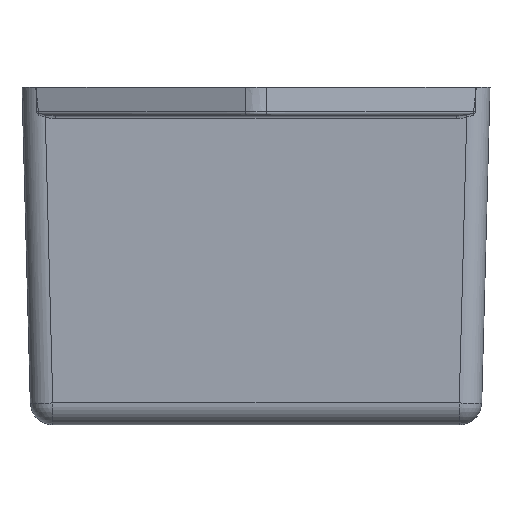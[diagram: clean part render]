
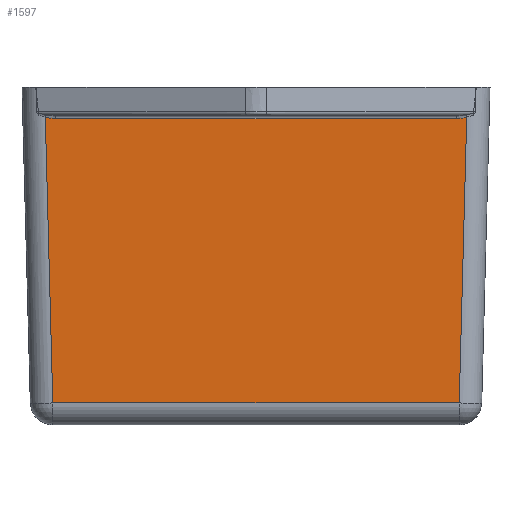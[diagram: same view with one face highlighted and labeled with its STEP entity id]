
A CAD part, left-side view. The second image highlights one B-rep face of the part: STEP entity #1597.
In plain terms, the highlighted planar face has unit normal (-1, 0, -0.026).
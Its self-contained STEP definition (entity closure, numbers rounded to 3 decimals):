
#93=ELLIPSE('',#1691,1.998,0.762);
#94=ELLIPSE('',#1692,1.998,0.762);
#224=ORIENTED_EDGE('',*,*,#540,.T.);
#225=ORIENTED_EDGE('',*,*,#541,.T.);
#226=ORIENTED_EDGE('',*,*,#542,.T.);
#227=ORIENTED_EDGE('',*,*,#543,.T.);
#228=ORIENTED_EDGE('',*,*,#544,.T.);
#229=ORIENTED_EDGE('',*,*,#545,.T.);
#540=EDGE_CURVE('',#696,#697,#792,.T.);
#541=EDGE_CURVE('',#697,#698,#93,.F.);
#542=EDGE_CURVE('',#698,#699,#793,.F.);
#543=EDGE_CURVE('',#699,#700,#94,.F.);
#544=EDGE_CURVE('',#700,#701,#794,.F.);
#545=EDGE_CURVE('',#701,#696,#795,.T.);
#696=VERTEX_POINT('',#2271);
#697=VERTEX_POINT('',#2272);
#698=VERTEX_POINT('',#2274);
#699=VERTEX_POINT('',#2276);
#700=VERTEX_POINT('',#2278);
#701=VERTEX_POINT('',#2280);
#792=LINE('',#2270,#886);
#793=LINE('',#2275,#887);
#794=LINE('',#2279,#888);
#795=LINE('',#2281,#889);
#886=VECTOR('',#1903,1000.);
#887=VECTOR('',#1906,1000.);
#888=VECTOR('',#1909,1000.);
#889=VECTOR('',#1910,1000.);
#943=EDGE_LOOP('',(#224,#225,#226,#227,#228,#229));
#1017=FACE_BOUND('',#943,.T.);
#1083=PLANE('',#1690);
#1597=ADVANCED_FACE('',(#1017),#1083,.T.);
#1690=AXIS2_PLACEMENT_3D('',#2269,#1901,#1902);
#1691=AXIS2_PLACEMENT_3D('',#2273,#1904,#1905);
#1692=AXIS2_PLACEMENT_3D('',#2277,#1907,#1908);
#1901=DIRECTION('',(-1.,0.,-0.026));
#1902=DIRECTION('',(-0.026,0.,1.));
#1903=DIRECTION('',(-0.026,-0.026,0.999));
#1904=DIRECTION('',(-1.,0.,-0.026));
#1905=DIRECTION('',(0.,1.,0.011));
#1906=DIRECTION('',(0.,-1.,0.));
#1907=DIRECTION('',(-1.,0.,-0.026));
#1908=DIRECTION('',(0.,1.,-0.011));
#1909=DIRECTION('',(-0.026,0.026,0.999));
#1910=DIRECTION('',(0.,-1.,0.));
#2269=CARTESIAN_POINT('',(-25.4,0.,0.));
#2270=CARTESIAN_POINT('',(-25.384,-22.845,-0.598));
#2271=CARTESIAN_POINT('',(-25.465,-22.926,2.474));
#2272=CARTESIAN_POINT('',(-26.309,-23.77,34.704));
#2273=CARTESIAN_POINT('',(-26.325,-22.541,35.316));
#2274=CARTESIAN_POINT('',(-26.305,-22.589,34.554));
#2275=CARTESIAN_POINT('',(-26.305,23.488,34.554));
#2276=CARTESIAN_POINT('',(-26.305,22.589,34.554));
#2277=CARTESIAN_POINT('',(-26.325,22.541,35.316));
#2278=CARTESIAN_POINT('',(-26.309,23.77,34.704));
#2279=CARTESIAN_POINT('',(-25.384,22.845,-0.598));
#2280=CARTESIAN_POINT('',(-25.465,22.926,2.474));
#2281=CARTESIAN_POINT('',(-25.465,0.,2.474));
